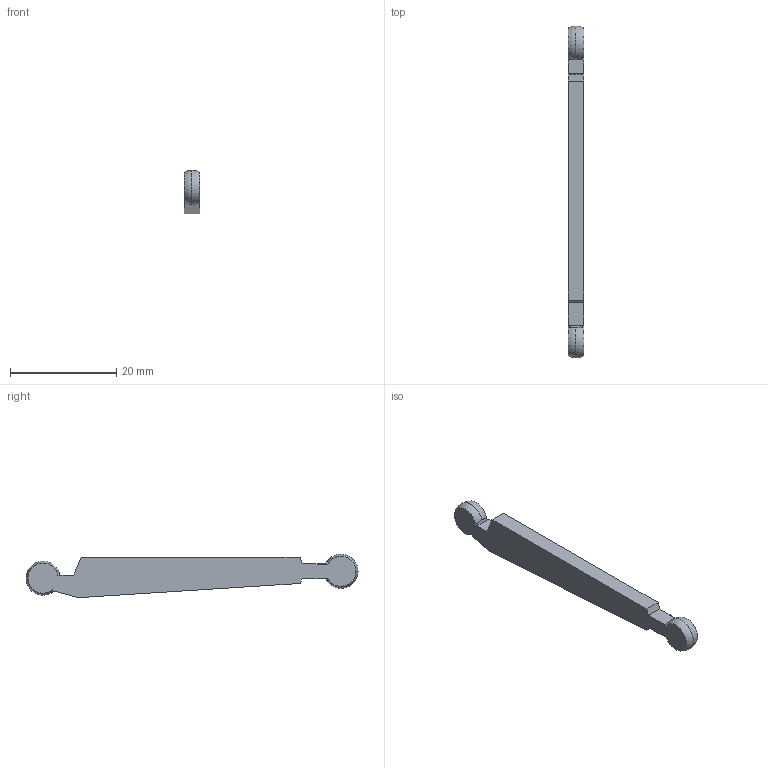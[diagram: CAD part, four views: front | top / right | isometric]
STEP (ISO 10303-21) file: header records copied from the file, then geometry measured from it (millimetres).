
FILE_DESCRIPTION (( 'STEP AP214' ), '1' );
FILE_NAME ('B1-leg-under leg.step', '2023-08-03T13:48:24', ( '' ), ( '' ), 'SwSTEP 2.0', 'SolidWorks 2020', '' );
FILE_SCHEMA (( 'AUTOMOTIVE_DESIGN' ));
Length unit declared in the file: millimetre
Products named in the file (1): B1-leg-under leg
Bounding box: 3 x 62.4 x 8.15 mm (x, y, z)
Volume: 1049.8 mm3; surface area: 1102 mm2
Topology: 1 solids, 1 shells, 36 faces, 93 edges, 59 vertices
Faces by surface type: plane 16, cylinder 8, cone 8, sphere 4
Entity records: 1169 total; most frequent: CARTESIAN_POINT 277, ORIENTED_EDGE 186, DIRECTION 173, EDGE_CURVE 93, AXIS2_PLACEMENT_3D 63, VERTEX_POINT 59, LINE 47, VECTOR 47
